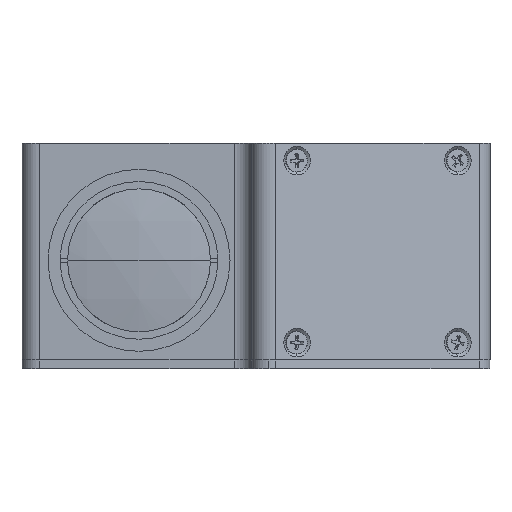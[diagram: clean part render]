
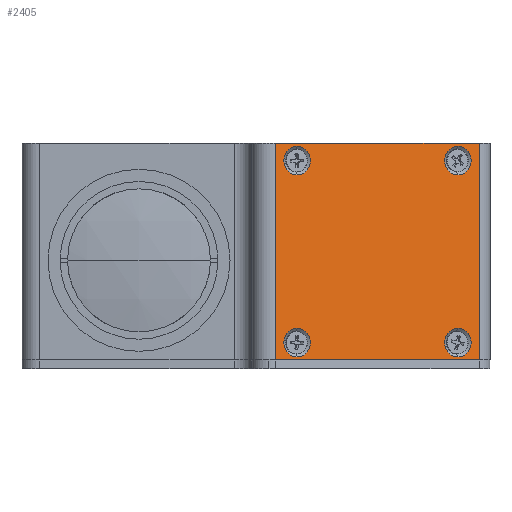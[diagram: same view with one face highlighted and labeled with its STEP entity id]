
A CAD part, left-side view. The second image highlights one B-rep face of the part: STEP entity #2405.
In plain terms, the highlighted planar face has unit normal (-0.927, -0.375, 0).
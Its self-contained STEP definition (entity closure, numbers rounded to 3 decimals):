
#65 = AXIS2_PLACEMENT_3D ( 'NONE', #5284, #13265, #6456 ) ;
#139 = EDGE_CURVE ( 'NONE', #11156, #1279, #5147, .T. ) ;
#205 = CIRCLE ( 'NONE', #9382, 3.3 ) ;
#442 = ORIENTED_EDGE ( 'NONE', *, *, #7419, .F. ) ;
#577 = EDGE_CURVE ( 'NONE', #10592, #13544, #11110, .T. ) ;
#694 = CARTESIAN_POINT ( 'NONE',  ( 25.854, -36.495, 23. ) ) ;
#706 = EDGE_CURVE ( 'NONE', #1279, #11156, #12656, .T. ) ;
#776 = AXIS2_PLACEMENT_3D ( 'NONE', #1182, #9325, #2415 ) ;
#801 = EDGE_CURVE ( 'NONE', #802, #7507, #950, .T. ) ;
#802 = VERTEX_POINT ( 'NONE', #14303 ) ;
#868 = EDGE_CURVE ( 'NONE', #9614, #4941, #205, .T. ) ;
#874 = AXIS2_PLACEMENT_3D ( 'NONE', #6766, #14620, #7942 ) ;
#881 = DIRECTION ( 'NONE',  ( -0.927, -0.375, 0. ) ) ;
#884 = DIRECTION ( 'NONE',  ( 0., 0., 1. ) ) ;
#922 = EDGE_CURVE ( 'NONE', #13888, #6067, #14005, .T. ) ;
#950 = CIRCLE ( 'NONE', #65, 3.3 ) ;
#969 = EDGE_CURVE ( 'NONE', #10592, #10559, #13317, .T. ) ;
#1009 = EDGE_LOOP ( 'NONE', ( #11745, #12478, #4306, #10034 ) ) ;
#1013 = EDGE_CURVE ( 'NONE', #10321, #13544, #9693, .T. ) ;
#1079 = EDGE_CURVE ( 'NONE', #10321, #10559, #12303, .T. ) ;
#1182 = CARTESIAN_POINT ( 'NONE',  ( 25.854, -36.495, 23. ) ) ;
#1279 = VERTEX_POINT ( 'NONE', #3296 ) ;
#1675 = AXIS2_PLACEMENT_3D ( 'NONE', #694, #8821, #1896 ) ;
#1896 = DIRECTION ( 'NONE',  ( 0., 0., 1. ) ) ;
#2088 = CARTESIAN_POINT ( 'NONE',  ( 42.825, -78.498, -23. ) ) ;
#2405 = ADVANCED_FACE ( 'NONE', ( #11909, #6145, #3112, #8877, #5775 ), #6954, .T. ) ;
#2415 = DIRECTION ( 'NONE',  ( 0., 0., 1. ) ) ;
#3112 = FACE_BOUND ( 'NONE', #6028, .T. ) ;
#3296 = CARTESIAN_POINT ( 'NONE',  ( 25.854, -36.495, 26.3 ) ) ;
#3387 = CIRCLE ( 'NONE', #6323, 3.3 ) ;
#3397 = CARTESIAN_POINT ( 'NONE',  ( 40.838, -73.583, 23. ) ) ;
#3528 = VECTOR ( 'NONE', #3731, 1000. ) ;
#3731 = DIRECTION ( 'NONE',  ( 0.375, -0.927, 0. ) ) ;
#3802 = ORIENTED_EDGE ( 'NONE', *, *, #801, .F. ) ;
#4216 = VECTOR ( 'NONE', #10611, 1000. ) ;
#4306 = ORIENTED_EDGE ( 'NONE', *, *, #1013, .F. ) ;
#4430 = DIRECTION ( 'NONE',  ( -0.927, -0.375, 0. ) ) ;
#4531 = DIRECTION ( 'NONE',  ( 0., 0., 1. ) ) ;
#4941 = VERTEX_POINT ( 'NONE', #11325 ) ;
#5146 = CARTESIAN_POINT ( 'NONE',  ( 42.825, -78.498, 27. ) ) ;
#5147 = CIRCLE ( 'NONE', #1675, 3.3 ) ;
#5284 = CARTESIAN_POINT ( 'NONE',  ( 25.854, -36.495, -19. ) ) ;
#5397 = ORIENTED_EDGE ( 'NONE', *, *, #139, .F. ) ;
#5469 = VECTOR ( 'NONE', #13045, 1000. ) ;
#5475 = CARTESIAN_POINT ( 'NONE',  ( 23.843, -31.516, -23. ) ) ;
#5714 = CARTESIAN_POINT ( 'NONE',  ( 40.838, -73.583, -19. ) ) ;
#5775 = FACE_OUTER_BOUND ( 'NONE', #1009, .T. ) ;
#5883 = EDGE_CURVE ( 'NONE', #4941, #9614, #7928, .T. ) ;
#5943 = CARTESIAN_POINT ( 'NONE',  ( 45.334, -84.709, -23. ) ) ;
#6028 = EDGE_LOOP ( 'NONE', ( #3802, #442 ) ) ;
#6067 = VERTEX_POINT ( 'NONE', #9616 ) ;
#6145 = FACE_BOUND ( 'NONE', #9543, .T. ) ;
#6178 = EDGE_LOOP ( 'NONE', ( #13654, #11173 ) ) ;
#6323 = AXIS2_PLACEMENT_3D ( 'NONE', #11373, #4430, #12462 ) ;
#6358 = EDGE_CURVE ( 'NONE', #6067, #13888, #3387, .T. ) ;
#6456 = DIRECTION ( 'NONE',  ( 0., 0., 1. ) ) ;
#6766 = CARTESIAN_POINT ( 'NONE',  ( 25.854, -36.495, -19. ) ) ;
#6922 = DIRECTION ( 'NONE',  ( 0., 0., 1. ) ) ;
#6954 = PLANE ( 'NONE',  #11205 ) ;
#7010 = ORIENTED_EDGE ( 'NONE', *, *, #5883, .F. ) ;
#7038 = ORIENTED_EDGE ( 'NONE', *, *, #868, .F. ) ;
#7419 = EDGE_CURVE ( 'NONE', #7507, #802, #12598, .T. ) ;
#7507 = VERTEX_POINT ( 'NONE', #10406 ) ;
#7849 = CARTESIAN_POINT ( 'NONE',  ( 40.838, -73.583, -19. ) ) ;
#7928 = CIRCLE ( 'NONE', #8748, 3.3 ) ;
#7942 = DIRECTION ( 'NONE',  ( 0., 0., 1. ) ) ;
#8040 = CARTESIAN_POINT ( 'NONE',  ( 40.838, -73.583, -15.7 ) ) ;
#8117 = DIRECTION ( 'NONE',  ( 0., 0., 1. ) ) ;
#8430 = VECTOR ( 'NONE', #884, 1000. ) ;
#8468 = EDGE_LOOP ( 'NONE', ( #11574, #5397 ) ) ;
#8748 = AXIS2_PLACEMENT_3D ( 'NONE', #5714, #13662, #6922 ) ;
#8821 = DIRECTION ( 'NONE',  ( -0.927, -0.375, 0. ) ) ;
#8877 = FACE_BOUND ( 'NONE', #8468, .T. ) ;
#9008 = DIRECTION ( 'NONE',  ( 0., 0., 1. ) ) ;
#9012 = CARTESIAN_POINT ( 'NONE',  ( 42.825, -78.498, 2. ) ) ;
#9092 = AXIS2_PLACEMENT_3D ( 'NONE', #3397, #11450, #4531 ) ;
#9325 = DIRECTION ( 'NONE',  ( -0.927, -0.375, 0. ) ) ;
#9382 = AXIS2_PLACEMENT_3D ( 'NONE', #7849, #881, #9008 ) ;
#9543 = EDGE_LOOP ( 'NONE', ( #7038, #7010 ) ) ;
#9614 = VERTEX_POINT ( 'NONE', #8040 ) ;
#9616 = CARTESIAN_POINT ( 'NONE',  ( 40.838, -73.583, 19.7 ) ) ;
#9693 = LINE ( 'NONE', #13920, #3528 ) ;
#10034 = ORIENTED_EDGE ( 'NONE', *, *, #1079, .T. ) ;
#10321 = VERTEX_POINT ( 'NONE', #11662 ) ;
#10406 = CARTESIAN_POINT ( 'NONE',  ( 25.854, -36.495, -22.3 ) ) ;
#10559 = VERTEX_POINT ( 'NONE', #5475 ) ;
#10592 = VERTEX_POINT ( 'NONE', #2088 ) ;
#10611 = DIRECTION ( 'NONE',  ( -0.375, 0.927, 0. ) ) ;
#10858 = CARTESIAN_POINT ( 'NONE',  ( 23.843, -31.516, 2. ) ) ;
#11110 = LINE ( 'NONE', #9012, #8430 ) ;
#11156 = VERTEX_POINT ( 'NONE', #12756 ) ;
#11173 = ORIENTED_EDGE ( 'NONE', *, *, #6358, .F. ) ;
#11205 = AXIS2_PLACEMENT_3D ( 'NONE', #12618, #14793, #8117 ) ;
#11325 = CARTESIAN_POINT ( 'NONE',  ( 40.838, -73.583, -22.3 ) ) ;
#11373 = CARTESIAN_POINT ( 'NONE',  ( 40.838, -73.583, 23. ) ) ;
#11450 = DIRECTION ( 'NONE',  ( -0.927, -0.375, 0. ) ) ;
#11574 = ORIENTED_EDGE ( 'NONE', *, *, #706, .F. ) ;
#11662 = CARTESIAN_POINT ( 'NONE',  ( 23.843, -31.516, 27. ) ) ;
#11745 = ORIENTED_EDGE ( 'NONE', *, *, #969, .F. ) ;
#11909 = FACE_BOUND ( 'NONE', #6178, .T. ) ;
#12303 = LINE ( 'NONE', #10858, #5469 ) ;
#12462 = DIRECTION ( 'NONE',  ( 0., 0., 1. ) ) ;
#12478 = ORIENTED_EDGE ( 'NONE', *, *, #577, .T. ) ;
#12598 = CIRCLE ( 'NONE', #874, 3.3 ) ;
#12618 = CARTESIAN_POINT ( 'NONE',  ( 33.477, -55.363, 2. ) ) ;
#12656 = CIRCLE ( 'NONE', #776, 3.3 ) ;
#12756 = CARTESIAN_POINT ( 'NONE',  ( 25.854, -36.495, 19.7 ) ) ;
#13045 = DIRECTION ( 'NONE',  ( 0., 0., -1. ) ) ;
#13265 = DIRECTION ( 'NONE',  ( -0.927, -0.375, 0. ) ) ;
#13317 = LINE ( 'NONE', #5943, #4216 ) ;
#13544 = VERTEX_POINT ( 'NONE', #5146 ) ;
#13654 = ORIENTED_EDGE ( 'NONE', *, *, #922, .F. ) ;
#13662 = DIRECTION ( 'NONE',  ( -0.927, -0.375, 0. ) ) ;
#13750 = CARTESIAN_POINT ( 'NONE',  ( 40.838, -73.583, 26.3 ) ) ;
#13888 = VERTEX_POINT ( 'NONE', #13750 ) ;
#13920 = CARTESIAN_POINT ( 'NONE',  ( 45.334, -84.709, 27. ) ) ;
#14005 = CIRCLE ( 'NONE', #9092, 3.3 ) ;
#14303 = CARTESIAN_POINT ( 'NONE',  ( 25.854, -36.495, -15.7 ) ) ;
#14620 = DIRECTION ( 'NONE',  ( -0.927, -0.375, 0. ) ) ;
#14793 = DIRECTION ( 'NONE',  ( -0.927, -0.375, 0. ) ) ;
